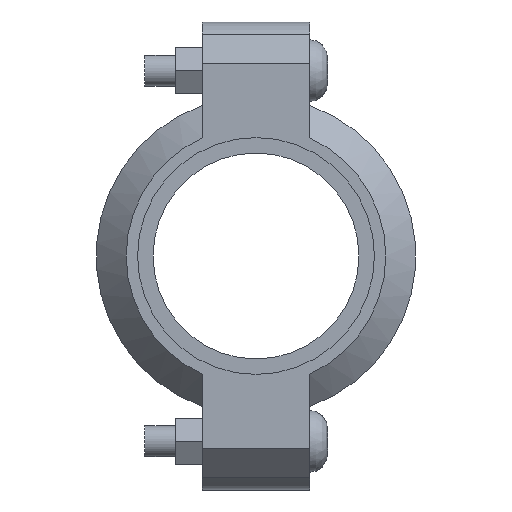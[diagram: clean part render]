
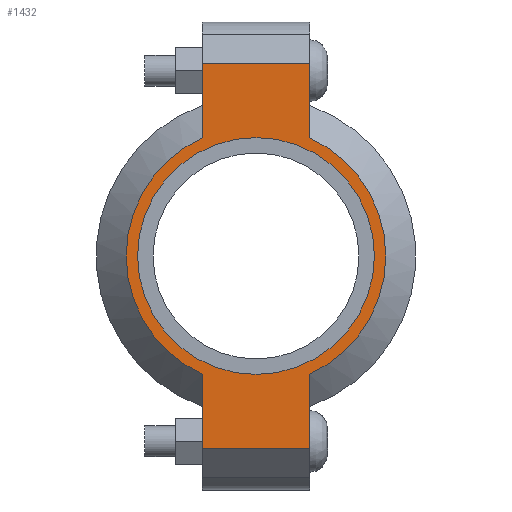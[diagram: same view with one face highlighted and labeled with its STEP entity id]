
A CAD part, left-side view. The second image highlights one B-rep face of the part: STEP entity #1432.
In plain terms, the highlighted planar face has unit normal (-1, 0, 0) as drawn and (0, 0, 1) by its records, which use the part's own axes.
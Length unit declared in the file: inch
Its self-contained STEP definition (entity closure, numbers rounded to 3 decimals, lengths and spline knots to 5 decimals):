
#112=LINE('',#2483,#203);
#120=LINE('',#2519,#211);
#127=LINE('',#2540,#218);
#136=LINE('',#2572,#227);
#137=LINE('',#2576,#228);
#138=LINE('',#2578,#229);
#203=VECTOR('',#2017,0.3937);
#211=VECTOR('',#2033,0.3937);
#218=VECTOR('',#2052,0.3937);
#227=VECTOR('',#2077,0.3937);
#228=VECTOR('',#2082,0.3937);
#229=VECTOR('',#2083,0.3937);
#281=FACE_BOUND('',#441,.T.);
#345=FACE_OUTER_BOUND('',#440,.T.);
#440=EDGE_LOOP('',(#1167,#1168,#1169,#1170,#1171,#1172,#1173,#1174));
#441=EDGE_LOOP('',(#1175));
#538=CIRCLE('',#1693,1.575);
#539=CIRCLE('',#1694,1.575);
#540=CIRCLE('',#1695,1.4375);
#643=VERTEX_POINT('',#2480);
#644=VERTEX_POINT('',#2482);
#655=VERTEX_POINT('',#2514);
#656=VERTEX_POINT('',#2518);
#663=VERTEX_POINT('',#2537);
#664=VERTEX_POINT('',#2539);
#674=VERTEX_POINT('',#2575);
#675=VERTEX_POINT('',#2577);
#676=VERTEX_POINT('',#2580);
#807=EDGE_CURVE('',#644,#643,#112,.T.);
#821=EDGE_CURVE('',#656,#655,#120,.T.);
#831=EDGE_CURVE('',#664,#663,#127,.T.);
#846=EDGE_CURVE('',#656,#643,#136,.T.);
#847=EDGE_CURVE('',#655,#664,#538,.T.);
#848=EDGE_CURVE('',#674,#663,#137,.T.);
#849=EDGE_CURVE('',#674,#675,#138,.T.);
#850=EDGE_CURVE('',#675,#644,#539,.T.);
#851=EDGE_CURVE('',#676,#676,#540,.T.);
#1167=ORIENTED_EDGE('',*,*,#846,.F.);
#1168=ORIENTED_EDGE('',*,*,#821,.T.);
#1169=ORIENTED_EDGE('',*,*,#847,.T.);
#1170=ORIENTED_EDGE('',*,*,#831,.T.);
#1171=ORIENTED_EDGE('',*,*,#848,.F.);
#1172=ORIENTED_EDGE('',*,*,#849,.T.);
#1173=ORIENTED_EDGE('',*,*,#850,.T.);
#1174=ORIENTED_EDGE('',*,*,#807,.T.);
#1175=ORIENTED_EDGE('',*,*,#851,.T.);
#1286=PLANE('',#1692);
#1432=ADVANCED_FACE('',(#345,#281),#1286,.T.);
#1692=AXIS2_PLACEMENT_3D('',#2573,#2078,#2079);
#1693=AXIS2_PLACEMENT_3D('',#2574,#2080,#2081);
#1694=AXIS2_PLACEMENT_3D('',#2579,#2084,#2085);
#1695=AXIS2_PLACEMENT_3D('',#2581,#2086,#2087);
#2017=DIRECTION('',(1.,0.,0.));
#2033=DIRECTION('',(-1.,0.,0.));
#2052=DIRECTION('',(-1.,0.,0.));
#2077=DIRECTION('',(0.,-1.,0.));
#2078=DIRECTION('center_axis',(0.,0.,1.));
#2079=DIRECTION('ref_axis',(-1.,0.,0.));
#2080=DIRECTION('center_axis',(0.,0.,1.));
#2081=DIRECTION('ref_axis',(1.,0.,0.));
#2082=DIRECTION('',(0.,1.,0.));
#2083=DIRECTION('',(1.,0.,0.));
#2084=DIRECTION('center_axis',(0.,0.,1.));
#2085=DIRECTION('ref_axis',(1.,0.,0.));
#2086=DIRECTION('center_axis',(0.,0.,-1.));
#2087=DIRECTION('ref_axis',(1.,0.,0.));
#2480=CARTESIAN_POINT('',(2.34,-0.65,0.94));
#2482=CARTESIAN_POINT('',(1.43462,-0.65,0.94));
#2483=CARTESIAN_POINT('',(2.84,-0.65,0.94));
#2514=CARTESIAN_POINT('',(1.43462,0.65,0.94));
#2518=CARTESIAN_POINT('',(2.34,0.65,0.94));
#2519=CARTESIAN_POINT('',(-2.84,0.65,0.94));
#2537=CARTESIAN_POINT('',(-2.34,0.65,0.94));
#2539=CARTESIAN_POINT('',(-1.43462,0.65,0.94));
#2540=CARTESIAN_POINT('',(-2.84,0.65,0.94));
#2572=CARTESIAN_POINT('',(2.34,-0.325,0.94));
#2573=CARTESIAN_POINT('Origin',(0.,0.,
0.94));
#2574=CARTESIAN_POINT('Origin',(0.,0.,0.94));
#2575=CARTESIAN_POINT('',(-2.34,-0.65,0.94));
#2576=CARTESIAN_POINT('',(-2.34,0.325,0.94));
#2577=CARTESIAN_POINT('',(-1.43462,-0.65,0.94));
#2578=CARTESIAN_POINT('',(2.84,-0.65,0.94));
#2579=CARTESIAN_POINT('Origin',(0.,0.,0.94));
#2580=CARTESIAN_POINT('',(-1.4375,0.,0.94));
#2581=CARTESIAN_POINT('Origin',(0.,0.,0.94));
